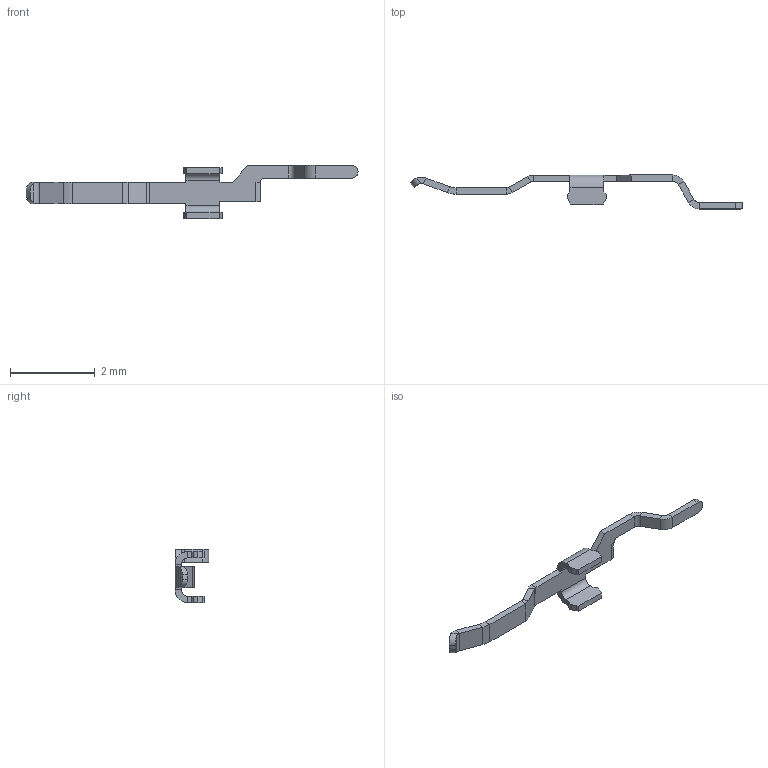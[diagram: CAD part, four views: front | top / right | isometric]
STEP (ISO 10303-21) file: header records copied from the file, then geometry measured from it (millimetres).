
FILE_DESCRIPTION((''),'2;1');
FILE_NAME('T-DSC20-500X00_2_PRT','2008-06-30T',('GRA'),(''),'PRO/ENGINEER BY PARAMETRIC TECHNOLOGY CORPORATION, 2006170','PRO/ENGINEER BY PARAMETRIC TECHNOLOGY CORPORATION, 2006170','');
FILE_SCHEMA(('CONFIG_CONTROL_DESIGN'));
Length unit declared in the file: millimetre
Products named in the file (1): T-DSC20-500X00_2_PRT
Bounding box: 7.81 x 0.8 x 1.25 mm (x, y, z)
Volume: 0.8 mm3; surface area: 13.2 mm2
Topology: 1 solids, 1 shells, 102 faces, 239 edges, 139 vertices
Faces by surface type: plane 78, cylinder 24
Entity records: 2872 total; most frequent: CARTESIAN_POINT 499, DIRECTION 487, ORIENTED_EDGE 478, EDGE_CURVE 239, VECTOR 187, LINE 187, AXIS2_PLACEMENT_3D 150, VERTEX_POINT 139
